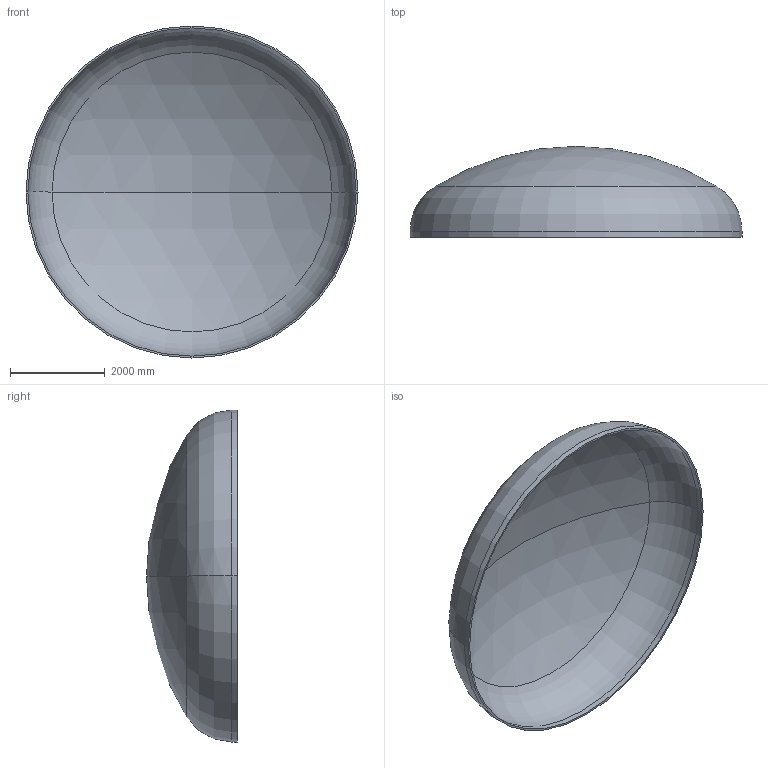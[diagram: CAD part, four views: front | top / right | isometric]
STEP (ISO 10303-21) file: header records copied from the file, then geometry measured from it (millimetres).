
FILE_DESCRIPTION (( 'STEP AP203' ), '1' );
FILE_NAME ('DIN 28013 Korbbogenform_-_Boden DIN 28013 - 7000 x 120 - I - s=39.step', '2016-07-04T10:47:08', ( '' ), ( '' ), 'SwSTEP 2.0', 'SolidWorks 2013', '' );
FILE_SCHEMA (( 'CONFIG_CONTROL_DESIGN' ));
Length unit declared in the file: millimetre
Products named in the file (1): DIN 28013 Korbbogenform_-_Boden DIN 28013 - 7000 x 120 - I - s=39
Bounding box: 7000 x 1916.96 x 7000 mm (x, y, z)
Volume: 2166612657.9 mm3; surface area: 111964359.9 mm2
Topology: 1 solids, 1 shells, 13 faces, 24 edges, 14 vertices
Faces by surface type: torus 4, cylinder 4, sphere 4, plane 1
Entity records: 407 total; most frequent: DIRECTION 72, CARTESIAN_POINT 52, ORIENTED_EDGE 48, AXIS2_PLACEMENT_3D 34, EDGE_CURVE 24, CIRCLE 20, EDGE_LOOP 14, VERTEX_POINT 14
